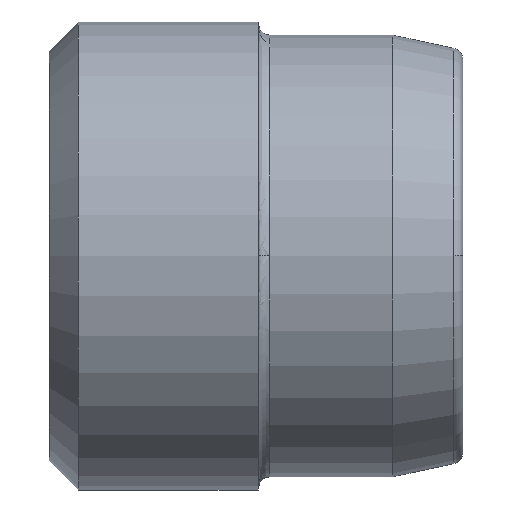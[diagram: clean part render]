
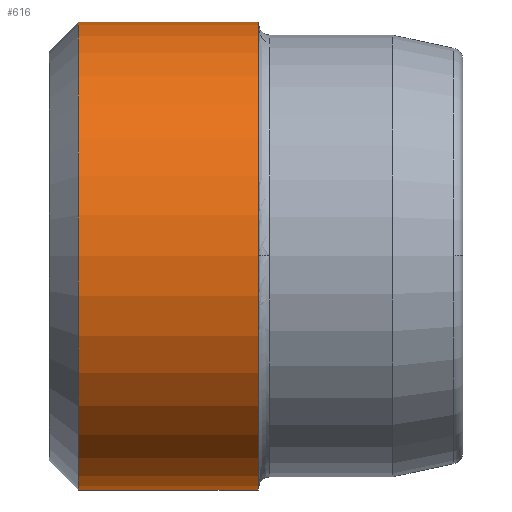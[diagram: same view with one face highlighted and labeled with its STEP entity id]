
A CAD part, top view. The second image highlights one B-rep face of the part: STEP entity #616.
In plain terms, the highlighted cylindrical face has radius 4 mm (diameter 8 mm), a partial arc.
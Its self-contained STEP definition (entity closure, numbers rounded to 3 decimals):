
#575=CARTESIAN_POINT('',(-0.537,1.633,0.0));
#576=DIRECTION('',(1.0,0.0,0.0));
#577=DIRECTION('',(0.0,1.0,0.0));
#578=AXIS2_PLACEMENT_3D('',#575,#576,#577);
#579=CYLINDRICAL_SURFACE('',#578,4.0);
#580=CARTESIAN_POINT('',(-1.825,5.633,0.0));
#581=VERTEX_POINT('',#580);
#582=CARTESIAN_POINT('',(1.25,5.633,0.0));
#583=VERTEX_POINT('',#582);
#584=CARTESIAN_POINT('',(-1.825,5.633,0.0));
#585=DIRECTION('',(1.0,0.0,0.0));
#586=VECTOR('',#585,3.075);
#587=LINE('',#584,#586);
#588=EDGE_CURVE('',#581,#583,#587,.T.);
#589=ORIENTED_EDGE('',*,*,#588,.F.);
#590=CARTESIAN_POINT('',(-1.825,-2.367,0.));
#591=VERTEX_POINT('',#590);
#592=CARTESIAN_POINT('',(-1.825,1.633,0.0));
#593=DIRECTION('',(-1.0,0.0,0.0));
#594=DIRECTION('',(0.0,-1.0,0.0));
#595=AXIS2_PLACEMENT_3D('',#592,#593,#594);
#596=CIRCLE('',#595,4.0);
#597=EDGE_CURVE('',#591,#581,#596,.T.);
#598=ORIENTED_EDGE('',*,*,#597,.F.);
#599=CARTESIAN_POINT('',(1.25,-2.367,0.));
#600=VERTEX_POINT('',#599);
#601=CARTESIAN_POINT('',(1.25,-2.367,0.));
#602=DIRECTION('',(-1.0,0.0,0.0));
#603=VECTOR('',#602,3.075);
#604=LINE('',#601,#603);
#605=EDGE_CURVE('',#600,#591,#604,.T.);
#606=ORIENTED_EDGE('',*,*,#605,.F.);
#607=CARTESIAN_POINT('',(1.25,1.633,0.0));
#608=DIRECTION('',(1.0,0.0,0.0));
#609=DIRECTION('',(0.0,1.0,0.0));
#610=AXIS2_PLACEMENT_3D('',#607,#608,#609);
#611=CIRCLE('',#610,4.0);
#612=EDGE_CURVE('',#583,#600,#611,.T.);
#613=ORIENTED_EDGE('',*,*,#612,.F.);
#614=EDGE_LOOP('',(#589,#598,#606,#613));
#615=FACE_OUTER_BOUND('',#614,.T.);
#616=ADVANCED_FACE('',(#615),#579,.T.);
